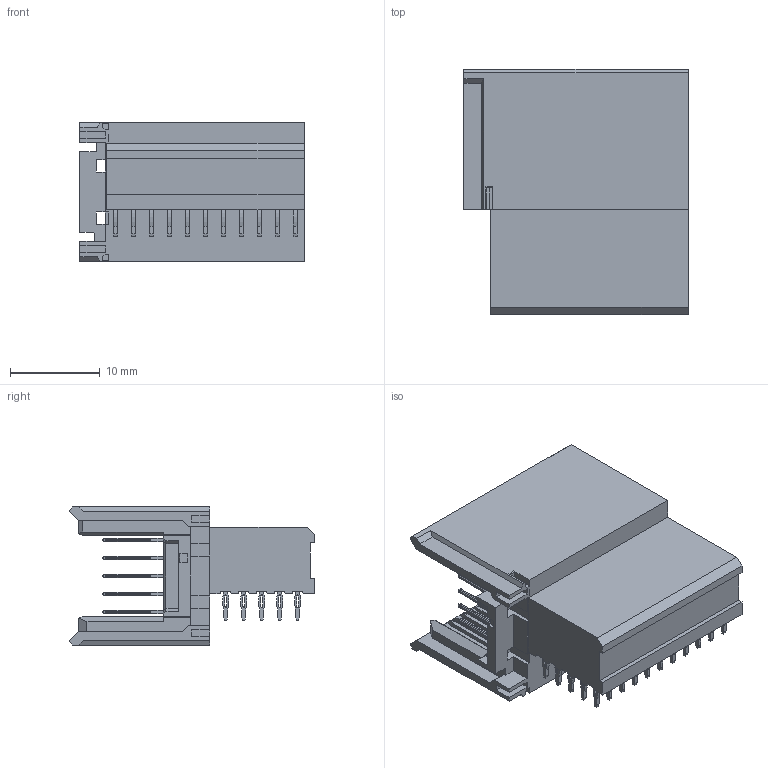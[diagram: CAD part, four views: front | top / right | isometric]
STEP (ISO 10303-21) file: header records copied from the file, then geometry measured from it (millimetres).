
FILE_DESCRIPTION (( 'STEP AP214' ), '1' );
FILE_NAME ('17_8072_055003840S+.STEP', '2021-03-12T06:25:42', ( '' ), ( '' ), 'SwSTEP 2.0', 'SolidWorks 2017', '' );
FILE_SCHEMA (( 'AUTOMOTIVE_DESIGN' ));
Products named in the file (1): 17_8072_055003840S+
Bounding box: 24.95 x 27.3 x 15.4 mm (x, y, z)
Volume: 4393.8 mm3; surface area: 4430.5 mm2
Topology: 1 solids, 1 shells, 3160 faces, 9225 edges, 6167 vertices
Faces by surface type: plane 2222, cylinder 938
Entity records: 107790 total; most frequent: CARTESIAN_POINT 31604, ORIENTED_EDGE 18450, DIRECTION 11686, EDGE_CURVE 9225, VERTEX_POINT 6167, LINE 4968, VECTOR 4968, B_SPLINE_CURVE_WITH_KNOTS 4059
